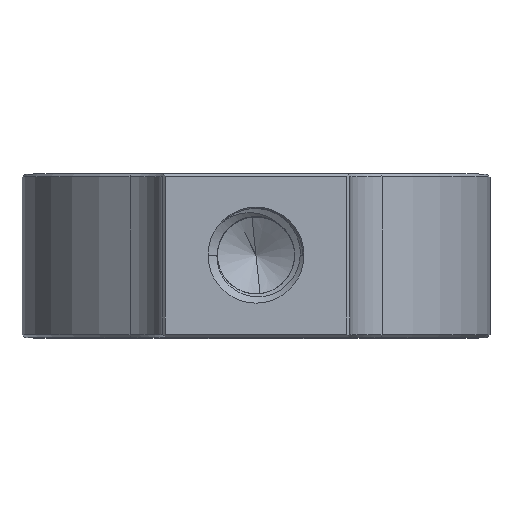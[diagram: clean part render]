
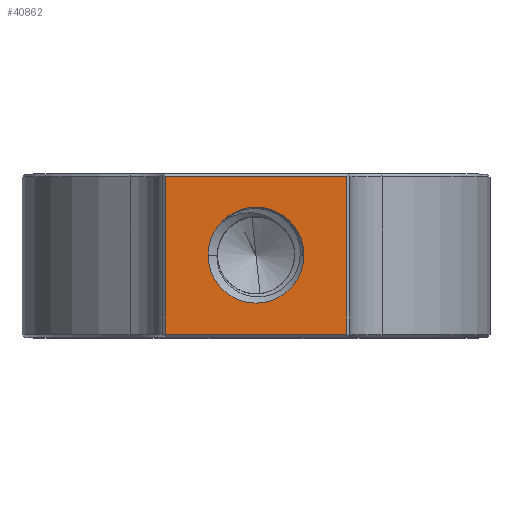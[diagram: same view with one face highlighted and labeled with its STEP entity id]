
A CAD part, top view. The second image highlights one B-rep face of the part: STEP entity #40862.
In plain terms, the highlighted planar face has unit normal (0, 0, 1).
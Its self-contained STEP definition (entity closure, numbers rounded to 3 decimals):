
#79 = EDGE_CURVE ( 'NONE', #52700, #1753, #52425, .T. ) ;
#1748 = DIRECTION ( 'NONE',  ( -1., 0., 0. ) ) ;
#1753 = VERTEX_POINT ( 'NONE', #42538 ) ;
#1803 = ORIENTED_EDGE ( 'NONE', *, *, #79, .T. ) ;
#2602 = EDGE_CURVE ( 'NONE', #20376, #3680, #53700, .T. ) ;
#3140 = VERTEX_POINT ( 'NONE', #31440 ) ;
#3680 = VERTEX_POINT ( 'NONE', #32728 ) ;
#5404 = CARTESIAN_POINT ( 'NONE',  ( 3.875, 7., 21.5 ) ) ;
#7301 = DIRECTION ( 'NONE',  ( 0., -1., 0. ) ) ;
#10835 = AXIS2_PLACEMENT_3D ( 'NONE', #52405, #31804, #23166 ) ;
#11921 = EDGE_LOOP ( 'NONE', ( #52923, #41965 ) ) ;
#13020 = CARTESIAN_POINT ( 'NONE',  ( -4., 7., 21.5 ) ) ;
#13406 = CARTESIAN_POINT ( 'NONE',  ( 0., 3.5, 21.5 ) ) ;
#13578 = DIRECTION ( 'NONE',  ( 0., 0., -1. ) ) ;
#16014 = CARTESIAN_POINT ( 'NONE',  ( 3.875, 0.125, 21.5 ) ) ;
#17247 = CIRCLE ( 'NONE', #25667, 2.05 ) ;
#18461 = EDGE_CURVE ( 'NONE', #3140, #52700, #20549, .T. ) ;
#20376 = VERTEX_POINT ( 'NONE', #27056 ) ;
#20549 = LINE ( 'NONE', #26987, #24525 ) ;
#21479 = PLANE ( 'NONE',  #51241 ) ;
#23166 = DIRECTION ( 'NONE',  ( -1., 0., 0. ) ) ;
#23428 = EDGE_CURVE ( 'NONE', #3680, #20376, #17247, .T. ) ;
#23853 = ORIENTED_EDGE ( 'NONE', *, *, #39285, .T. ) ;
#24525 = VECTOR ( 'NONE', #1748, 1000. ) ;
#25438 = EDGE_LOOP ( 'NONE', ( #42387, #1803, #23853, #36657 ) ) ;
#25667 = AXIS2_PLACEMENT_3D ( 'NONE', #13406, #29783, #54625 ) ;
#26987 = CARTESIAN_POINT ( 'NONE',  ( -4., 6.875, 21.5 ) ) ;
#27056 = CARTESIAN_POINT ( 'NONE',  ( 2.05, 3.5, 21.5 ) ) ;
#29783 = DIRECTION ( 'NONE',  ( 0., 0., -1. ) ) ;
#31440 = CARTESIAN_POINT ( 'NONE',  ( 3.875, 6.875, 21.5 ) ) ;
#31804 = DIRECTION ( 'NONE',  ( 0., 0., -1. ) ) ;
#32728 = CARTESIAN_POINT ( 'NONE',  ( -2.05, 3.5, 21.5 ) ) ;
#33453 = DIRECTION ( 'NONE',  ( 1., 0., 0. ) ) ;
#34182 = DIRECTION ( 'NONE',  ( -1., 0., 0. ) ) ;
#35416 = EDGE_CURVE ( 'NONE', #40284, #3140, #43847, .T. ) ;
#36609 = VECTOR ( 'NONE', #7301, 1000. ) ;
#36657 = ORIENTED_EDGE ( 'NONE', *, *, #35416, .T. ) ;
#37502 = CARTESIAN_POINT ( 'NONE',  ( -4., 0.125, 21.5 ) ) ;
#38908 = DIRECTION ( 'NONE',  ( 0., 1., 0. ) ) ;
#39285 = EDGE_CURVE ( 'NONE', #1753, #40284, #41645, .T. ) ;
#40284 = VERTEX_POINT ( 'NONE', #16014 ) ;
#40862 = ADVANCED_FACE ( 'NONE', ( #46839, #44286 ), #21479, .F. ) ;
#41645 = LINE ( 'NONE', #37502, #50164 ) ;
#41965 = ORIENTED_EDGE ( 'NONE', *, *, #23428, .T. ) ;
#42387 = ORIENTED_EDGE ( 'NONE', *, *, #18461, .T. ) ;
#42538 = CARTESIAN_POINT ( 'NONE',  ( -3.875, 0.125, 21.5 ) ) ;
#43847 = LINE ( 'NONE', #5404, #53674 ) ;
#44286 = FACE_OUTER_BOUND ( 'NONE', #25438, .T. ) ;
#46839 = FACE_BOUND ( 'NONE', #11921, .T. ) ;
#49251 = CARTESIAN_POINT ( 'NONE',  ( -3.875, 7., 21.5 ) ) ;
#50164 = VECTOR ( 'NONE', #33453, 1000. ) ;
#51241 = AXIS2_PLACEMENT_3D ( 'NONE', #13020, #13578, #34182 ) ;
#52109 = CARTESIAN_POINT ( 'NONE',  ( -3.875, 6.875, 21.5 ) ) ;
#52405 = CARTESIAN_POINT ( 'NONE',  ( 0., 3.5, 21.5 ) ) ;
#52425 = LINE ( 'NONE', #49251, #36609 ) ;
#52700 = VERTEX_POINT ( 'NONE', #52109 ) ;
#52923 = ORIENTED_EDGE ( 'NONE', *, *, #2602, .T. ) ;
#53674 = VECTOR ( 'NONE', #38908, 1000. ) ;
#53700 = CIRCLE ( 'NONE', #10835, 2.05 ) ;
#54625 = DIRECTION ( 'NONE',  ( -1., 0., 0. ) ) ;
